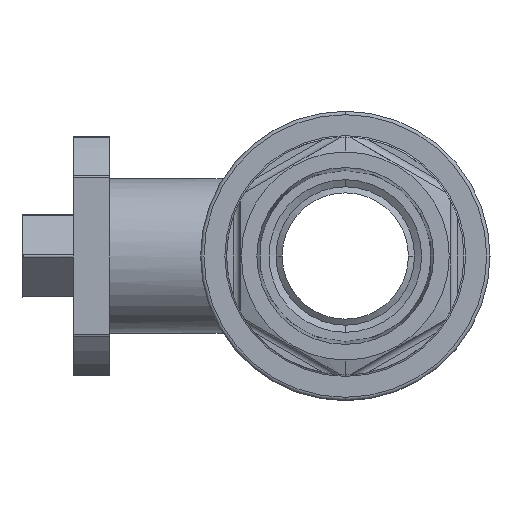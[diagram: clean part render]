
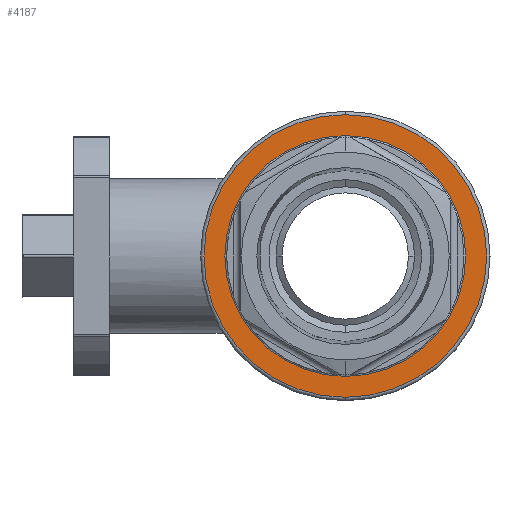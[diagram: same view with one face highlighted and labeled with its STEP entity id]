
A CAD part, left-side view. The second image highlights one B-rep face of the part: STEP entity #4187.
In plain terms, the highlighted planar face has unit normal (-1, 0, 0).
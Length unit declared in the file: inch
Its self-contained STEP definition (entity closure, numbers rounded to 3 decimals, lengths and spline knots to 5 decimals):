
#267 = AXIS2_PLACEMENT_3D ( 'NONE', #728, #4709, #1289 ) ;
#374 = VERTEX_POINT ( 'NONE', #3478 ) ;
#479 = DIRECTION ( 'NONE',  ( -1., 0., 0. ) ) ;
#576 = CIRCLE ( 'NONE', #267, 0.8395 ) ;
#728 = CARTESIAN_POINT ( 'NONE',  ( -0.87, 0., 0. ) ) ;
#778 = AXIS2_PLACEMENT_3D ( 'NONE', #4727, #5859, #2466 ) ;
#1289 = DIRECTION ( 'NONE',  ( 0., 0., 1. ) ) ;
#1635 = EDGE_CURVE ( 'NONE', #3710, #374, #576, .T. ) ;
#1850 = DIRECTION ( 'NONE',  ( -1., 0., 0. ) ) ;
#2310 = CARTESIAN_POINT ( 'NONE',  ( -0.87, 0., 0.8395 ) ) ;
#2466 = DIRECTION ( 'NONE',  ( 0., 0., 1. ) ) ;
#2552 = CARTESIAN_POINT ( 'NONE',  ( -0.87, 0., 0. ) ) ;
#2751 = ORIENTED_EDGE ( 'NONE', *, *, #6647, .T. ) ;
#2907 = FACE_BOUND ( 'NONE', #4158, .T. ) ;
#2914 = AXIS2_PLACEMENT_3D ( 'NONE', #3891, #479, #4450 ) ;
#3001 = ORIENTED_EDGE ( 'NONE', *, *, #4490, .F. ) ;
#3098 = ORIENTED_EDGE ( 'NONE', *, *, #1635, .T. ) ;
#3112 = DIRECTION ( 'NONE',  ( 0., 0., 1. ) ) ;
#3431 = EDGE_LOOP ( 'NONE', ( #3098, #2751 ) ) ;
#3478 = CARTESIAN_POINT ( 'NONE',  ( -0.87, 0., -0.8395 ) ) ;
#3530 = CIRCLE ( 'NONE', #2914, 0.715 ) ;
#3710 = VERTEX_POINT ( 'NONE', #2310 ) ;
#3891 = CARTESIAN_POINT ( 'NONE',  ( -0.87, 0., 0. ) ) ;
#4139 = EDGE_CURVE ( 'NONE', #5707, #4414, #6117, .T. ) ;
#4158 = EDGE_LOOP ( 'NONE', ( #6383, #3001 ) ) ;
#4184 = AXIS2_PLACEMENT_3D ( 'NONE', #2552, #6518, #3112 ) ;
#4187 = ADVANCED_FACE ( 'NONE', ( #5936, #2907 ), #6948, .T. ) ;
#4397 = CARTESIAN_POINT ( 'NONE',  ( -0.87, 0., -0.715 ) ) ;
#4414 = VERTEX_POINT ( 'NONE', #4397 ) ;
#4450 = DIRECTION ( 'NONE',  ( 0., 0., 1. ) ) ;
#4490 = EDGE_CURVE ( 'NONE', #4414, #5707, #3530, .T. ) ;
#4709 = DIRECTION ( 'NONE',  ( -1., 0., 0. ) ) ;
#4727 = CARTESIAN_POINT ( 'NONE',  ( -0.87, -0.715, 0. ) ) ;
#5112 = AXIS2_PLACEMENT_3D ( 'NONE', #5241, #1850, #5809 ) ;
#5241 = CARTESIAN_POINT ( 'NONE',  ( -0.87, 0., 0. ) ) ;
#5707 = VERTEX_POINT ( 'NONE', #5934 ) ;
#5809 = DIRECTION ( 'NONE',  ( 0., 0., 1. ) ) ;
#5859 = DIRECTION ( 'NONE',  ( -1., 0., 0. ) ) ;
#5934 = CARTESIAN_POINT ( 'NONE',  ( -0.87, 0., 0.715 ) ) ;
#5936 = FACE_OUTER_BOUND ( 'NONE', #3431, .T. ) ;
#6019 = CIRCLE ( 'NONE', #4184, 0.8395 ) ;
#6117 = CIRCLE ( 'NONE', #5112, 0.715 ) ;
#6383 = ORIENTED_EDGE ( 'NONE', *, *, #4139, .F. ) ;
#6518 = DIRECTION ( 'NONE',  ( -1., 0., 0. ) ) ;
#6647 = EDGE_CURVE ( 'NONE', #374, #3710, #6019, .T. ) ;
#6948 = PLANE ( 'NONE',  #778 ) ;
